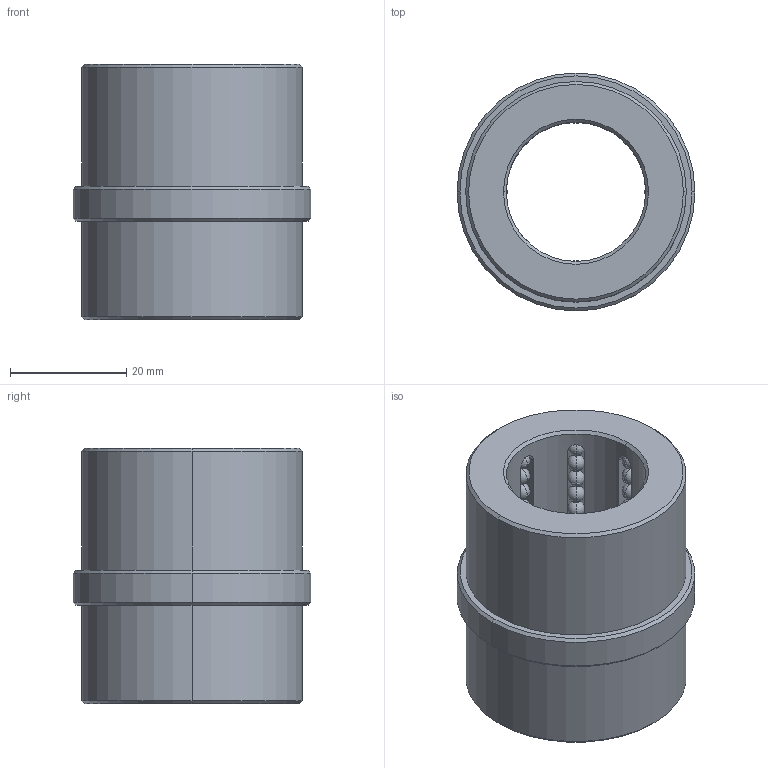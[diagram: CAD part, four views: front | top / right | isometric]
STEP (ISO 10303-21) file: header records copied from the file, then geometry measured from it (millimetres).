
FILE_DESCRIPTION((''),'2;1');
FILE_NAME('B844241727','2018-01-24T',('MANU'),(''),'PRO/ENGINEER BY PARAMETRIC TECHNOLOGY CORPORATION, 2012130','PRO/ENGINEER BY PARAMETRIC TECHNOLOGY CORPORATION, 2012130','');
FILE_SCHEMA(('CONFIG_CONTROL_DESIGN'));
Length unit declared in the file: millimetre
Products named in the file (1): B844241727
Bounding box: 41 x 41 x 44 mm (x, y, z)
Volume: 29754.6 mm3; surface area: 14786.8 mm2
Topology: 97 solids, 97 shells, 256 faces, 726 edges, 288 vertices
Faces by surface type: sphere 192, plane 28, cylinder 24, cone 12
Entity records: 5746 total; most frequent: CARTESIAN_POINT 1160, DIRECTION 1070, ORIENTED_EDGE 684, AXIS2_PLACEMENT_3D 492, EDGE_CURVE 342, VERTEX_POINT 288, EDGE_LOOP 266, FACE_OUTER_BOUND 256
